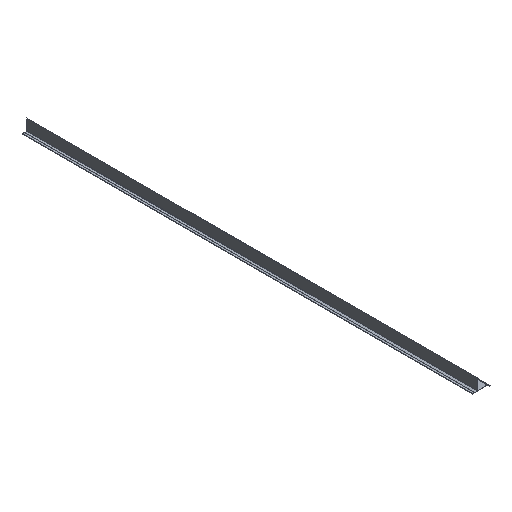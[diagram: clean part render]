
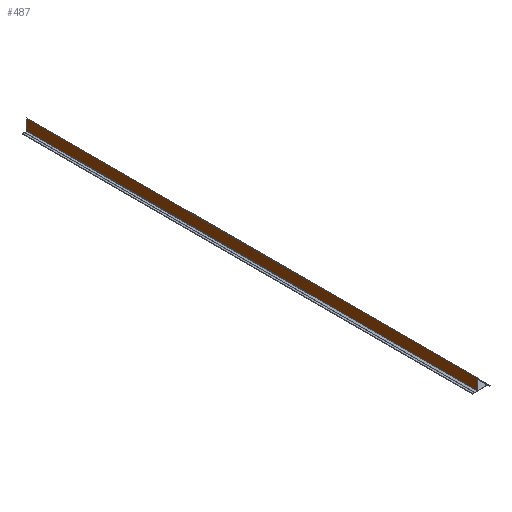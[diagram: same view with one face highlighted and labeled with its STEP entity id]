
A CAD part, isometric view. The second image highlights one B-rep face of the part: STEP entity #487.
In plain terms, the highlighted planar face has unit normal (-1, 0, 0).
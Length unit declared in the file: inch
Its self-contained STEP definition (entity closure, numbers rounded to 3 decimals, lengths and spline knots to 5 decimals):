
#51=FACE_OUTER_BOUND('',#77,.T.);
#77=EDGE_LOOP('',(#345,#346,#347,#348));
#111=LINE('',#758,#163);
#112=LINE('',#761,#164);
#113=LINE('',#763,#165);
#114=LINE('',#764,#166);
#163=VECTOR('',#609,0.3937);
#164=VECTOR('',#612,0.3937);
#165=VECTOR('',#613,0.3937);
#166=VECTOR('',#614,0.3937);
#213=VERTEX_POINT('',#754);
#214=VERTEX_POINT('',#756);
#215=VERTEX_POINT('',#760);
#216=VERTEX_POINT('',#762);
#267=EDGE_CURVE('',#213,#214,#111,.T.);
#268=EDGE_CURVE('',#215,#213,#112,.T.);
#269=EDGE_CURVE('',#216,#214,#113,.T.);
#270=EDGE_CURVE('',#215,#216,#114,.T.);
#345=ORIENTED_EDGE('',*,*,#268,.T.);
#346=ORIENTED_EDGE('',*,*,#267,.T.);
#347=ORIENTED_EDGE('',*,*,#269,.F.);
#348=ORIENTED_EDGE('',*,*,#270,.F.);
#469=PLANE('',#537);
#487=ADVANCED_FACE('',(#51),#469,.T.);
#537=AXIS2_PLACEMENT_3D('',#759,#610,#611);
#609=DIRECTION('',(0.,1.,0.));
#610=DIRECTION('center_axis',(-1.,0.,0.));
#611=DIRECTION('ref_axis',(0.,0.,1.));
#612=DIRECTION('',(0.,0.,1.));
#613=DIRECTION('',(0.,0.,1.));
#614=DIRECTION('',(0.,1.,0.));
#754=CARTESIAN_POINT('',(-0.71559,0.,-0.10525));
#756=CARTESIAN_POINT('',(-0.71559,120.,-0.10525));
#758=CARTESIAN_POINT('',(-0.71559,0.,-0.10525));
#759=CARTESIAN_POINT('Origin',(-0.71559,0.,-3.0816));
#760=CARTESIAN_POINT('',(-0.71559,0.,-3.0816));
#761=CARTESIAN_POINT('',(-0.71559,0.,-3.0816));
#762=CARTESIAN_POINT('',(-0.71559,120.,-3.0816));
#763=CARTESIAN_POINT('',(-0.71559,120.,-3.0816));
#764=CARTESIAN_POINT('',(-0.71559,0.,-3.0816));
